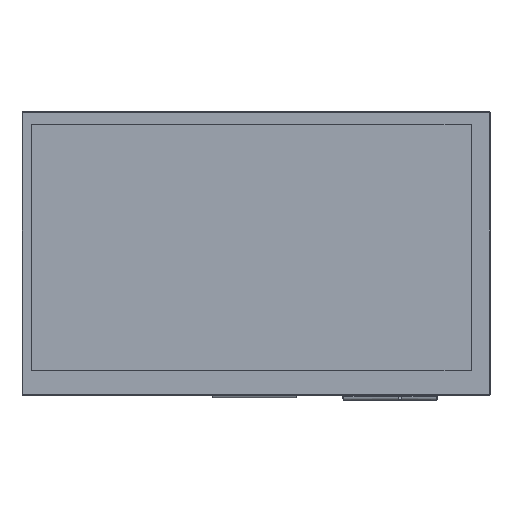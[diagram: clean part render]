
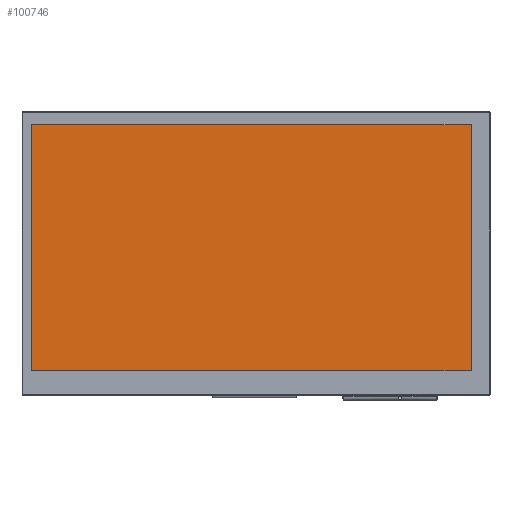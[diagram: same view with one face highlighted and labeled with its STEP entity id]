
A CAD part, top view. The second image highlights one B-rep face of the part: STEP entity #100746.
In plain terms, the highlighted planar face has unit normal (0, 0, 1).
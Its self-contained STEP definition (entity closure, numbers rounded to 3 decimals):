
#8099=FACE_OUTER_BOUND('',#13400,.T.);
#13400=EDGE_LOOP('',(#67523,#67524,#67525,#67526));
#18783=LINE('',#146483,#31072);
#18787=LINE('',#146491,#31076);
#18790=LINE('',#146497,#31079);
#18793=LINE('',#146502,#31082);
#31072=VECTOR('',#118010,10.);
#31076=VECTOR('',#118016,10.);
#31079=VECTOR('',#118021,10.);
#31082=VECTOR('',#118026,10.);
#43349=VERTEX_POINT('',#146481);
#43350=VERTEX_POINT('',#146482);
#43353=VERTEX_POINT('',#146490);
#43355=VERTEX_POINT('',#146496);
#52763=EDGE_CURVE('',#43349,#43350,#18783,.T.);
#52767=EDGE_CURVE('',#43353,#43349,#18787,.T.);
#52770=EDGE_CURVE('',#43355,#43353,#18790,.T.);
#52773=EDGE_CURVE('',#43350,#43355,#18793,.T.);
#67523=ORIENTED_EDGE('',*,*,#52773,.F.);
#67524=ORIENTED_EDGE('',*,*,#52763,.F.);
#67525=ORIENTED_EDGE('',*,*,#52767,.F.);
#67526=ORIENTED_EDGE('',*,*,#52770,.F.);
#96734=PLANE('',#109816);
#100746=ADVANCED_FACE('',(#8099),#96734,.T.);
#109816=AXIS2_PLACEMENT_3D('',#146505,#118030,#118031);
#118010=DIRECTION('',(0.,1.,0.));
#118016=DIRECTION('',(-1.,0.,0.));
#118021=DIRECTION('',(0.,-1.,0.));
#118026=DIRECTION('',(1.,0.,0.));
#118030=DIRECTION('center_axis',(0.,0.,1.));
#118031=DIRECTION('ref_axis',(1.,0.,0.));
#146481=CARTESIAN_POINT('',(-79.235,-41.285,1.1));
#146482=CARTESIAN_POINT('',(-79.235,45.435,1.1));
#146483=CARTESIAN_POINT('',(-79.235,-41.285,1.1));
#146490=CARTESIAN_POINT('',(75.775,-41.285,1.1));
#146491=CARTESIAN_POINT('',(75.775,-41.285,1.1));
#146496=CARTESIAN_POINT('',(75.775,45.435,1.1));
#146497=CARTESIAN_POINT('',(75.775,45.435,1.1));
#146502=CARTESIAN_POINT('',(-79.235,45.435,1.1));
#146505=CARTESIAN_POINT('Origin',(-1.73,2.075,1.1));
